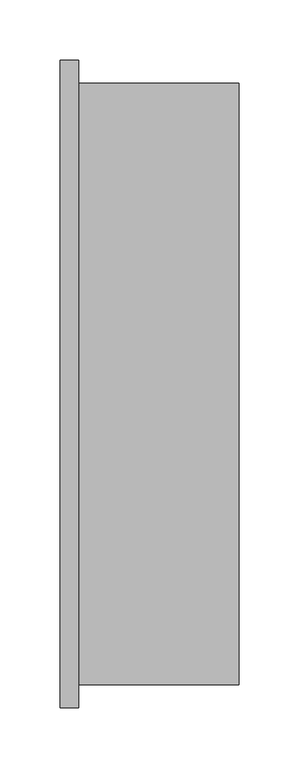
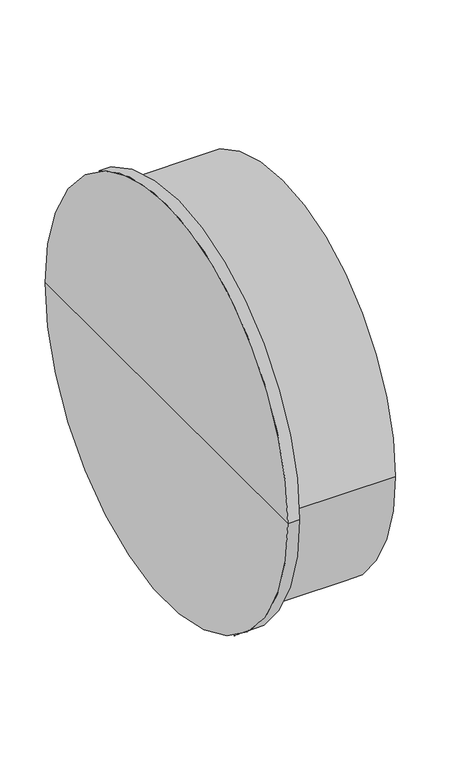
"""IFC4 building model written with IfcOpenShell, lengths in millimetres: pipe fitting geometry, OSMA_KG2000_PPKGM : Hrdlová zátka."""

from ifc_helpers import new_model, si_unit, frame, origin, place, context, project, spatial, circle_curve, source, transform, mapped, element, save
from ifc_brep_helpers import plane_surface, cylinder_surface, advanced_brep


def pipe_fitting_b5fd72b1(model_context):
    return source(origin(), model_context, "Body", "AdvancedBrep", [
        advanced_brep(
        [(149.0, -250.0, 0.0), (149.0, 250.0, 0.0), (149.0, 0.0, 0.0), (15.3, -250.0, 0.0), (15.3, 250.0, 0.0), (15.3, -269.3, 0.0), (15.3, 269.3, 0.0), (0.0, -269.3, 0.0), (0.0, 269.3, 0.0), (0.0, 0.0, 0.0)],
        [
            (0, 1, circle_curve(frame((149.0, 0.0, 0.0), z_axis=(1.0, 0.0, 0.0), x_axis=(0.0, 1.0, 0.0)), 250.0)),
            (1, 2),
            (2, 0),
            (1, 0, circle_curve(frame((149.0, 0.0, 0.0), z_axis=(1.0, 0.0, 0.0), x_axis=(0.0, 1.0, 0.0)), 250.0)),
            (3, 4, circle_curve(frame((15.3, 0.0, 0.0), z_axis=(1.0, 0.0, 0.0), x_axis=(0.0, 1.0, 0.0)), 250.0)),
            (4, 1),
            (0, 3),
            (4, 3, circle_curve(frame((15.3, 0.0, 0.0), z_axis=(1.0, 0.0, 0.0), x_axis=(0.0, 1.0, 0.0)), 250.0)),
            (5, 6, circle_curve(frame((15.3, 0.0, 0.0), z_axis=(1.0, 0.0, 0.0), x_axis=(0.0, 1.0, 0.0)), 269.3)),
            (6, 4),
            (3, 5),
            (6, 5, circle_curve(frame((15.3, 0.0, 0.0), z_axis=(1.0, 0.0, 0.0), x_axis=(0.0, 1.0, 0.0)), 269.3)),
            (7, 8, circle_curve(frame((0.0, 0.0, 0.0), z_axis=(1.0, 0.0, 0.0), x_axis=(0.0, 1.0, 0.0)), 269.3)),
            (8, 6),
            (5, 7),
            (8, 7, circle_curve(frame((0.0, 0.0, 0.0), z_axis=(1.0, 0.0, 0.0), x_axis=(0.0, 1.0, 0.0)), 269.3)),
            (9, 8),
            (7, 9),
        ],
        [
            plane_surface(frame((149.0, 0.0, 0.0), z_axis=(1.0, 0.0, 0.0), x_axis=(0.0, 1.0, 0.0))),
            cylinder_surface(frame((2094.0, 0.0, 0.0), z_axis=(-1.0, 0.0, 0.0), x_axis=(0.0, 1.0, 0.0)), 250.0),
            plane_surface(frame((15.3, 0.0, 0.0), z_axis=(1.0, 0.0, 0.0), x_axis=(0.0, 1.0, 0.0))),
            cylinder_surface(frame((2094.0, 0.0, 0.0), z_axis=(-1.0, 0.0, 0.0), x_axis=(0.0, 1.0, 0.0)), 269.3),
            plane_surface(frame((0.0, 0.0, 0.0), z_axis=(-1.0, 0.0, 0.0), x_axis=(0.0, 1.0, 0.0))),
        ],
        [
            (0, [[1, 2, 3]]),
            (0, [[4, -3, -2]]),
            (1, [[5, 6, -1, 7]]),
            (1, [[8, -7, -4, -6]]),
            (2, [[9, 10, -5, 11]]),
            (2, [[12, -11, -8, -10]]),
            (3, [[13, 14, -9, 15]]),
            (3, [[16, -15, -12, -14]]),
            (4, [[17, -13, 18]]),
            (4, [[-18, -16, -17]]),
        ],
    ),
    ])


if __name__ == "__main__":
    model = new_model("IFC4")
    model_context = context("Model", 3, world=origin())
    ifc_project = project(units=[si_unit("LENGTHUNIT", "METRE", prefix="MILLI")], contexts=[model_context])
    site = spatial("IfcSite", under=ifc_project)
    building = spatial("IfcBuilding", under=site)
    placement = place(None, origin())
    pipe_fitting_shape = pipe_fitting_b5fd72b1(model_context)
    element("IfcPipeFitting", 1, ObjectType="OSMA_KG2000_PPKGM : Hrdlová zátka", at=placement, inside=building, context=model_context, shape_type="MappedRepresentation", body=[
        mapped(pipe_fitting_shape, transform((0.0, 0.0, 0.0), x_axis=(1.0, 0.0, 0.0), y_axis=(0.0, 1.0, 0.0), z_axis=(0.0, 0.0, 1.0))),
    ])
    save(model, "model.ifc")
